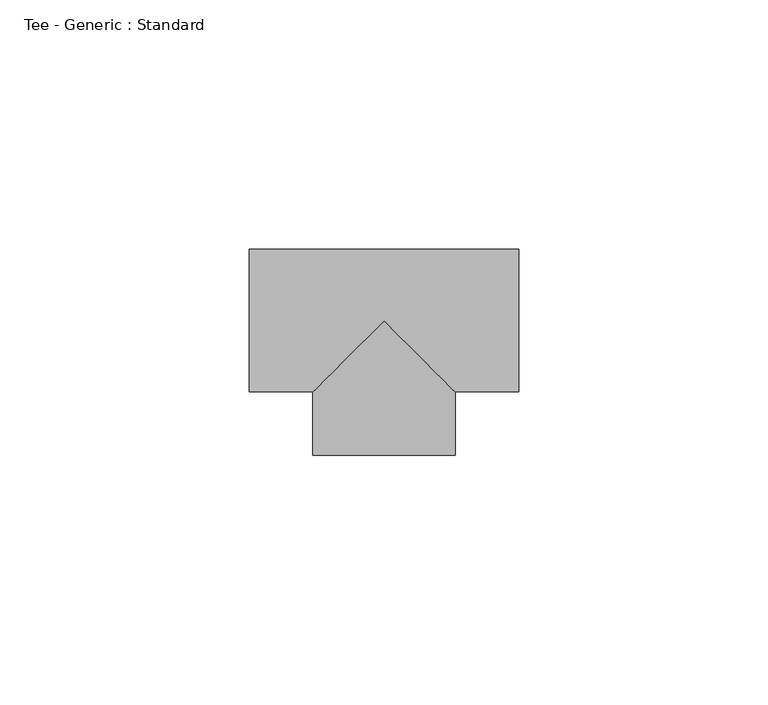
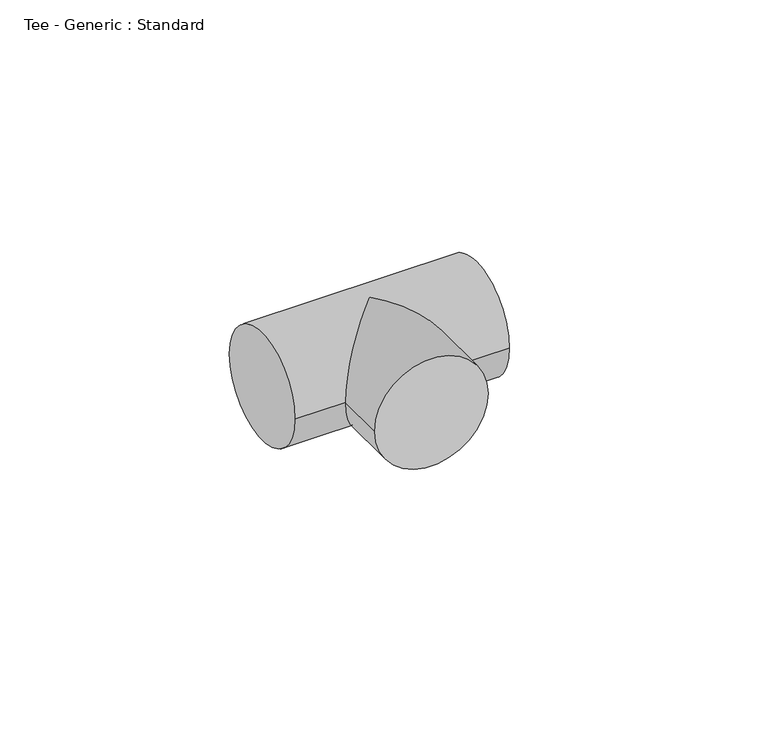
"""IFC4 building model written with IfcOpenShell, lengths in millimetres: pipe fitting geometry, Tee - Generic : Standard."""

from ifc_helpers import new_model, si_unit, frame, origin, place, context, project, spatial, circle_curve, ellipse_curve, source, transform, mapped, element, save
from ifc_brep_helpers import plane_surface, cylinder_surface, advanced_brep


def tee_generic_standard_c9cae54f(model_context):
    return source(origin(), model_context, "Body", "AdvancedBrep", [
        advanced_brep(
        [(-26.9875, -14.2875, 0.0), (-26.9875, 14.2875, 0.0), (26.9875, -14.2875, 0.0), (26.9875, 14.2875, 0.0), (-14.287509, -14.2875, 0.0), (0.0, 0.0, 14.2875), (14.287491, -14.2875, 0.0), (0.0, 0.0, -14.2875), (-14.287517, -26.987491, 0.0), (14.287483, -26.987509, 0.0)],
        [
            (0, 1, circle_curve(frame((-26.9875, 0.0, 0.0), z_axis=(-1.0, 0.0, 0.0), x_axis=(0.0, 1.0, 0.0)), 14.2875)),
            (1, 0, circle_curve(frame((-26.9875, 0.0, 0.0), z_axis=(-1.0, 0.0, 0.0), x_axis=(0.0, 1.0, 0.0)), 14.2875)),
            (2, 3, circle_curve(frame((26.9875, 0.0, 0.0), z_axis=(1.0, 0.0, 0.0), x_axis=(0.0, 1.0, 0.0)), 14.2875)),
            (3, 2, circle_curve(frame((26.9875, 0.0, 0.0), z_axis=(1.0, 0.0, 0.0), x_axis=(0.0, 1.0, 0.0)), 14.2875)),
            (0, 4),
            (4, 5, ellipse_curve(frame((0.0, 0.0, 0.0), z_axis=(-0.707106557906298, 0.7071070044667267, 0.0), x_axis=(-0.7071070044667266, -0.707106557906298, 0.0)), 20.2055827, 14.2875)),
            (5, 6, ellipse_curve(frame((0.0, 0.0, 0.0), z_axis=(0.7071070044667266, 0.707106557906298, 0.0), x_axis=(-0.707106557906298, 0.7071070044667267, 0.0)), 20.2055699, 14.2875)),
            (6, 2),
            (3, 1),
            (6, 7, ellipse_curve(frame((0.0, 0.0, 0.0), z_axis=(0.7071070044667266, 0.707106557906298, 0.0), x_axis=(-0.707106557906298, 0.7071070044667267, 0.0)), 20.2055699, 14.2875)),
            (7, 4, ellipse_curve(frame((0.0, 0.0, 0.0), z_axis=(-0.707106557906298, 0.7071070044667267, 0.0), x_axis=(-0.7071070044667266, -0.707106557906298, 0.0)), 20.2055827, 14.2875)),
            (8, 9, circle_curve(frame((-1.7e-05, -26.9875, 0.0), z_axis=(-6.315318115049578e-07, -0.9999999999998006, 0.0), x_axis=(0.9999999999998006, -6.315318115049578e-07, 0.0)), 14.2875)),
            (9, 8, circle_curve(frame((-1.7e-05, -26.9875, 0.0), z_axis=(-6.315318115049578e-07, -0.9999999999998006, 0.0), x_axis=(0.9999999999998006, -6.315318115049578e-07, 0.0)), 14.2875)),
            (9, 6),
            (4, 8),
        ],
        [
            plane_surface(frame((-26.9875, 0.0, 0.0), z_axis=(-1.0, 0.0, 0.0), x_axis=(0.0, 0.0, 1.0))),
            plane_surface(frame((26.9875, 0.0, 0.0), z_axis=(1.0, 0.0, 0.0), x_axis=(0.0, 0.0, 1.0))),
            cylinder_surface(frame((-26.9875, 0.0, 0.0), z_axis=(-1.0, 0.0, 0.0), x_axis=(0.0, 1.0, 0.0)), 14.2875),
            plane_surface(frame((-1.7e-05, -26.9875, 0.0), z_axis=(-6.315318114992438e-07, -0.9999999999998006, 0.0), x_axis=(0.0, 0.0, 1.0))),
            cylinder_surface(frame((0.0, 0.0, 0.0), z_axis=(6.315318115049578e-07, 0.9999999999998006, 0.0), x_axis=(0.9999999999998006, -6.315318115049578e-07, 0.0)), 14.2875),
        ],
        [
            (0, [[1, 2]]),
            (1, [[3, 4]]),
            (2, [[-1, 5, 6, 7, 8, -4, 9]]),
            (2, [[-2, -9, -3, -8, 10, 11, -5]]),
            (3, [[12, 13]]),
            (4, [[-13, 14, -7, -6, 15]]),
            (4, [[-12, -15, -11, -10, -14]]),
        ],
    ),
    ])


if __name__ == "__main__":
    model = new_model("IFC4")
    model_context = context("Model", 3, world=origin())
    ifc_project = project(units=[si_unit("LENGTHUNIT", "METRE", prefix="MILLI")], contexts=[model_context])
    site = spatial("IfcSite", under=ifc_project)
    building = spatial("IfcBuilding", under=site)
    placement = place(None, origin())
    tee_generic_standard_shape = tee_generic_standard_c9cae54f(model_context)
    element("IfcPipeFitting", 1, ObjectType="Tee - Generic : Standard", at=placement, inside=building, context=model_context, shape_type="MappedRepresentation", body=[
        mapped(tee_generic_standard_shape, transform((0.0, 0.0, 0.0), x_axis=(1.0, 0.0, 0.0), y_axis=(0.0, 1.0, 0.0), z_axis=(0.0, 0.0, 1.0))),
    ])
    save(model, "model.ifc")
